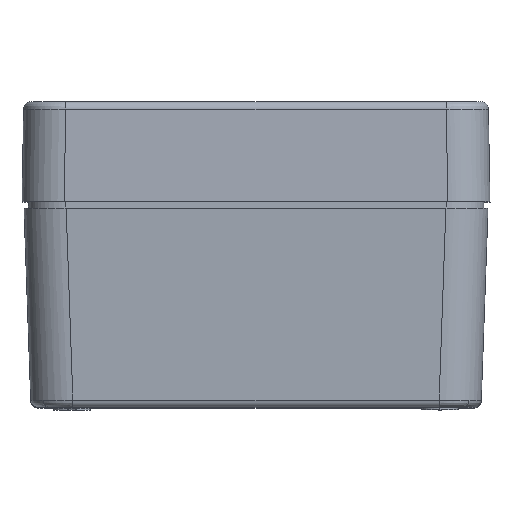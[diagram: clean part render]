
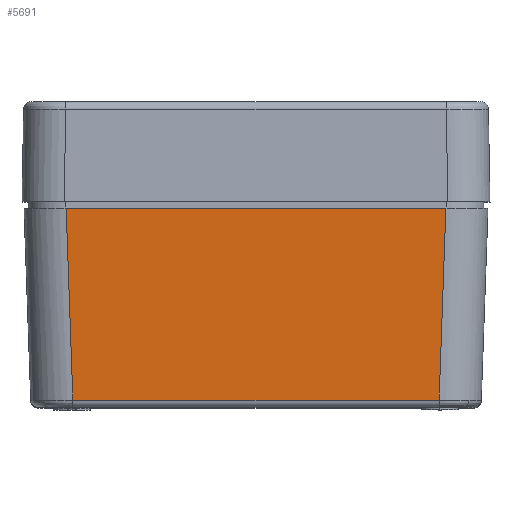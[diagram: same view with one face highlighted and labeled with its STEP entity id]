
A CAD part, top view. The second image highlights one B-rep face of the part: STEP entity #5691.
In plain terms, the highlighted planar face has unit normal (0, -0.035, 0.999).
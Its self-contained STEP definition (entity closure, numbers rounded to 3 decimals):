
#1784 = DIRECTION ( 'NONE',  ( 1., 0., 0. ) ) ;
#1951 = VECTOR ( 'NONE', #1784, 1000. ) ;
#2709 = CARTESIAN_POINT ( 'NONE',  ( -24.86, 0.191, 32.857 ) ) ;
#3011 = PLANE ( 'NONE',  #4481 ) ;
#3291 = EDGE_CURVE ( 'NONE', #8211, #6172, #12101, .T. ) ;
#3302 = VERTEX_POINT ( 'NONE', #6186 ) ;
#3961 = CARTESIAN_POINT ( 'NONE',  ( -24.767, -2.46, 32.764 ) ) ;
#4107 = CARTESIAN_POINT ( 'NONE',  ( 23.86, -27.495, 31.89 ) ) ;
#4170 = DIRECTION ( 'NONE',  ( 0., -0.999, -0.035 ) ) ;
#4386 = CARTESIAN_POINT ( 'NONE',  ( 23.893, -27.495, 31.89 ) ) ;
#4481 = AXIS2_PLACEMENT_3D ( 'NONE', #8801, #11142, #4170 ) ;
#4928 = EDGE_CURVE ( 'NONE', #14900, #3302, #6037, .T. ) ;
#5223 = CARTESIAN_POINT ( 'NONE',  ( -23.893, -27.495, 31.89 ) ) ;
#5341 = VECTOR ( 'NONE', #11156, 1000. ) ;
#5506 = ORIENTED_EDGE ( 'NONE', *, *, #3291, .T. ) ;
#5648 = ORIENTED_EDGE ( 'NONE', *, *, #8806, .T. ) ;
#5691 = ADVANCED_FACE ( 'NONE', ( #13503 ), #3011, .T. ) ;
#5898 = VECTOR ( 'NONE', #7322, 1000. ) ;
#6037 = LINE ( 'NONE', #6622, #14978 ) ;
#6172 = VERTEX_POINT ( 'NONE', #5223 ) ;
#6186 = CARTESIAN_POINT ( 'NONE',  ( 24.767, -2.46, 32.764 ) ) ;
#6331 = ORIENTED_EDGE ( 'NONE', *, *, #4928, .T. ) ;
#6622 = CARTESIAN_POINT ( 'NONE',  ( 24.786, -1.923, 32.783 ) ) ;
#6632 = EDGE_LOOP ( 'NONE', ( #6331, #6984, #5506, #5648 ) ) ;
#6984 = ORIENTED_EDGE ( 'NONE', *, *, #10446, .T. ) ;
#7322 = DIRECTION ( 'NONE',  ( 0.035, -0.999, -0.035 ) ) ;
#8211 = VERTEX_POINT ( 'NONE', #3961 ) ;
#8496 = LINE ( 'NONE', #4107, #1951 ) ;
#8801 = CARTESIAN_POINT ( 'NONE',  ( -30.35, 0., 32.85 ) ) ;
#8806 = EDGE_CURVE ( 'NONE', #6172, #14900, #8496, .T. ) ;
#9982 = CARTESIAN_POINT ( 'NONE',  ( -30.35, -2.46, 32.764 ) ) ;
#10446 = EDGE_CURVE ( 'NONE', #3302, #8211, #11546, .T. ) ;
#11142 = DIRECTION ( 'NONE',  ( 0., -0.035, 0.999 ) ) ;
#11156 = DIRECTION ( 'NONE',  ( -1., 0., 0. ) ) ;
#11546 = LINE ( 'NONE', #9982, #5341 ) ;
#12101 = LINE ( 'NONE', #2709, #5898 ) ;
#13503 = FACE_OUTER_BOUND ( 'NONE', #6632, .T. ) ;
#14783 = DIRECTION ( 'NONE',  ( 0.035, 0.999, 0.035 ) ) ;
#14900 = VERTEX_POINT ( 'NONE', #4386 ) ;
#14978 = VECTOR ( 'NONE', #14783, 1000. ) ;
